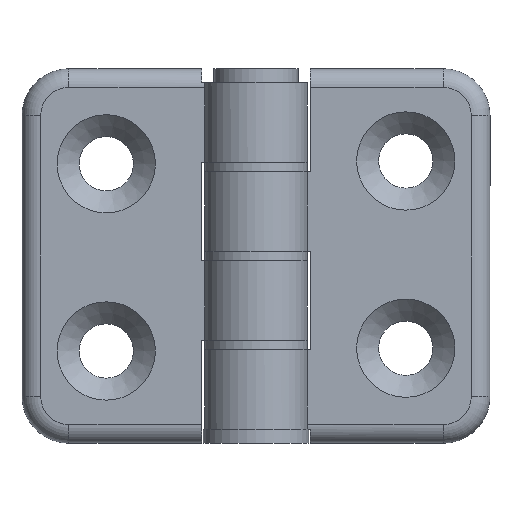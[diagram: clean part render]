
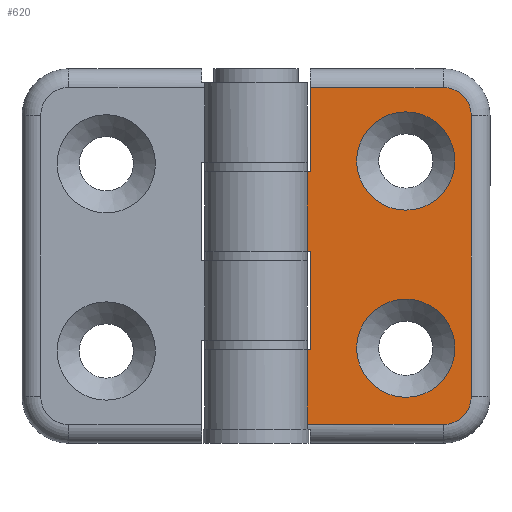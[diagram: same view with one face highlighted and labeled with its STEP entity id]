
A CAD part, left-side view. The second image highlights one B-rep face of the part: STEP entity #620.
In plain terms, the highlighted planar face has unit normal (-1, 0, 0).
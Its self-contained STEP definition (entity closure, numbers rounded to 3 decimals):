
#49=FACE_BOUND('',#147,.T.);
#50=FACE_BOUND('',#148,.T.);
#78=PLANE('',#676);
#106=FACE_OUTER_BOUND('',#146,.T.);
#146=EDGE_LOOP('',(#489,#490,#491,#492,#493,#494,#495,#496,#497,#498,#499,
#500));
#147=EDGE_LOOP('',(#501));
#148=EDGE_LOOP('',(#502));
#202=LINE('',#962,#238);
#204=LINE('',#979,#240);
#206=LINE('',#991,#242);
#211=LINE('',#1000,#247);
#220=LINE('',#1023,#256);
#221=LINE('',#1025,#257);
#222=LINE('',#1027,#258);
#223=LINE('',#1029,#259);
#224=LINE('',#1031,#260);
#225=LINE('',#1032,#261);
#238=VECTOR('',#749,14.803);
#240=VECTOR('',#763,30.);
#242=VECTOR('',#777,14.2);
#247=VECTOR('',#784,9.);
#256=VECTOR('',#809,0.603);
#257=VECTOR('',#810,8.5);
#258=VECTOR('',#811,0.603);
#259=VECTOR('',#812,10.5);
#260=VECTOR('',#813,0.603);
#261=VECTOR('',#814,8.);
#276=CIRCLE('',#658,3.);
#280=CIRCLE('',#664,3.);
#285=CIRCLE('',#677,5.25);
#286=CIRCLE('',#678,5.25);
#314=VERTEX_POINT('',#959);
#315=VERTEX_POINT('',#961);
#318=VERTEX_POINT('',#971);
#320=VERTEX_POINT('',#977);
#322=VERTEX_POINT('',#983);
#324=VERTEX_POINT('',#989);
#327=VERTEX_POINT('',#998);
#333=VERTEX_POINT('',#1022);
#334=VERTEX_POINT('',#1024);
#335=VERTEX_POINT('',#1026);
#336=VERTEX_POINT('',#1028);
#337=VERTEX_POINT('',#1030);
#338=VERTEX_POINT('',#1033);
#339=VERTEX_POINT('',#1035);
#370=EDGE_CURVE('',#314,#315,#202,.T.);
#374=EDGE_CURVE('',#318,#314,#276,.T.);
#377=EDGE_CURVE('',#320,#318,#204,.T.);
#380=EDGE_CURVE('',#322,#320,#280,.T.);
#383=EDGE_CURVE('',#324,#322,#206,.T.);
#388=EDGE_CURVE('',#324,#327,#211,.T.);
#399=EDGE_CURVE('',#327,#333,#220,.T.);
#400=EDGE_CURVE('',#333,#334,#221,.T.);
#401=EDGE_CURVE('',#334,#335,#222,.T.);
#402=EDGE_CURVE('',#335,#336,#223,.T.);
#403=EDGE_CURVE('',#336,#337,#224,.T.);
#404=EDGE_CURVE('',#337,#315,#225,.T.);
#405=EDGE_CURVE('',#338,#338,#285,.T.);
#406=EDGE_CURVE('',#339,#339,#286,.T.);
#489=ORIENTED_EDGE('',*,*,#383,.F.);
#490=ORIENTED_EDGE('',*,*,#388,.T.);
#491=ORIENTED_EDGE('',*,*,#399,.T.);
#492=ORIENTED_EDGE('',*,*,#400,.T.);
#493=ORIENTED_EDGE('',*,*,#401,.T.);
#494=ORIENTED_EDGE('',*,*,#402,.T.);
#495=ORIENTED_EDGE('',*,*,#403,.T.);
#496=ORIENTED_EDGE('',*,*,#404,.T.);
#497=ORIENTED_EDGE('',*,*,#370,.F.);
#498=ORIENTED_EDGE('',*,*,#374,.F.);
#499=ORIENTED_EDGE('',*,*,#377,.F.);
#500=ORIENTED_EDGE('',*,*,#380,.F.);
#501=ORIENTED_EDGE('',*,*,#405,.T.);
#502=ORIENTED_EDGE('',*,*,#406,.T.);
#620=ADVANCED_FACE('',(#106,#49,#50),#78,.T.);
#658=AXIS2_PLACEMENT_3D('',#973,#755,#756);
#664=AXIS2_PLACEMENT_3D('',#985,#769,#770);
#676=AXIS2_PLACEMENT_3D('',#1021,#807,#808);
#677=AXIS2_PLACEMENT_3D('',#1034,#815,#816);
#678=AXIS2_PLACEMENT_3D('',#1036,#817,#818);
#749=DIRECTION('',(0.,0.,1.));
#755=DIRECTION('center_axis',(1.,0.,0.));
#756=DIRECTION('ref_axis',(0.,0.707,-0.707));
#763=DIRECTION('',(0.,1.,0.));
#769=DIRECTION('center_axis',(1.,0.,0.));
#770=DIRECTION('ref_axis',(0.,-0.707,-0.707));
#777=DIRECTION('',(0.,0.,-1.));
#784=DIRECTION('',(0.,1.,0.));
#807=DIRECTION('center_axis',(-1.,0.,0.));
#808=DIRECTION('ref_axis',(0.,0.,1.));
#809=DIRECTION('',(0.,0.,1.));
#810=DIRECTION('',(0.,1.,0.));
#811=DIRECTION('',(0.,0.,-1.));
#812=DIRECTION('',(0.,1.,0.));
#813=DIRECTION('',(0.,0.,1.));
#814=DIRECTION('',(0.,1.,0.));
#815=DIRECTION('center_axis',(1.,0.,0.));
#816=DIRECTION('ref_axis',(0.,0.,1.));
#817=DIRECTION('center_axis',(1.,0.,0.));
#818=DIRECTION('ref_axis',(0.,0.,1.));
#959=CARTESIAN_POINT('',(1.8,38.,-20.));
#961=CARTESIAN_POINT('',(1.8,38.,-5.197));
#962=CARTESIAN_POINT('',(1.8,38.,-19.209));
#971=CARTESIAN_POINT('',(1.8,35.,-23.));
#973=CARTESIAN_POINT('Origin',(1.8,35.,-20.));
#977=CARTESIAN_POINT('',(1.8,5.,-23.));
#979=CARTESIAN_POINT('',(1.8,0.,-23.));
#983=CARTESIAN_POINT('',(1.8,2.,-20.));
#985=CARTESIAN_POINT('Origin',(1.8,5.,-20.));
#989=CARTESIAN_POINT('',(1.8,2.,-5.8));
#991=CARTESIAN_POINT('',(1.8,2.,-19.209));
#998=CARTESIAN_POINT('',(1.8,11.,-5.8));
#1000=CARTESIAN_POINT('',(1.8,0.75,-5.8));
#1021=CARTESIAN_POINT('Origin',(1.8,0.,-25.));
#1022=CARTESIAN_POINT('',(1.8,11.,-5.197));
#1023=CARTESIAN_POINT('',(1.8,11.,3.736));
#1024=CARTESIAN_POINT('',(1.8,19.5,-5.197));
#1025=CARTESIAN_POINT('',(1.8,0.,-5.197));
#1026=CARTESIAN_POINT('',(1.8,19.5,-5.8));
#1027=CARTESIAN_POINT('',(1.8,19.5,-15.4));
#1028=CARTESIAN_POINT('',(1.8,30.,-5.8));
#1029=CARTESIAN_POINT('',(1.8,10.25,-5.8));
#1030=CARTESIAN_POINT('',(1.8,30.,-5.197));
#1031=CARTESIAN_POINT('',(1.8,30.,3.736));
#1032=CARTESIAN_POINT('',(1.8,0.,-5.197));
#1033=CARTESIAN_POINT('',(1.8,9.85,-10.75));
#1034=CARTESIAN_POINT('Origin',(1.8,9.85,-16.));
#1035=CARTESIAN_POINT('',(1.8,29.85,-10.75));
#1036=CARTESIAN_POINT('Origin',(1.8,29.85,-16.));
